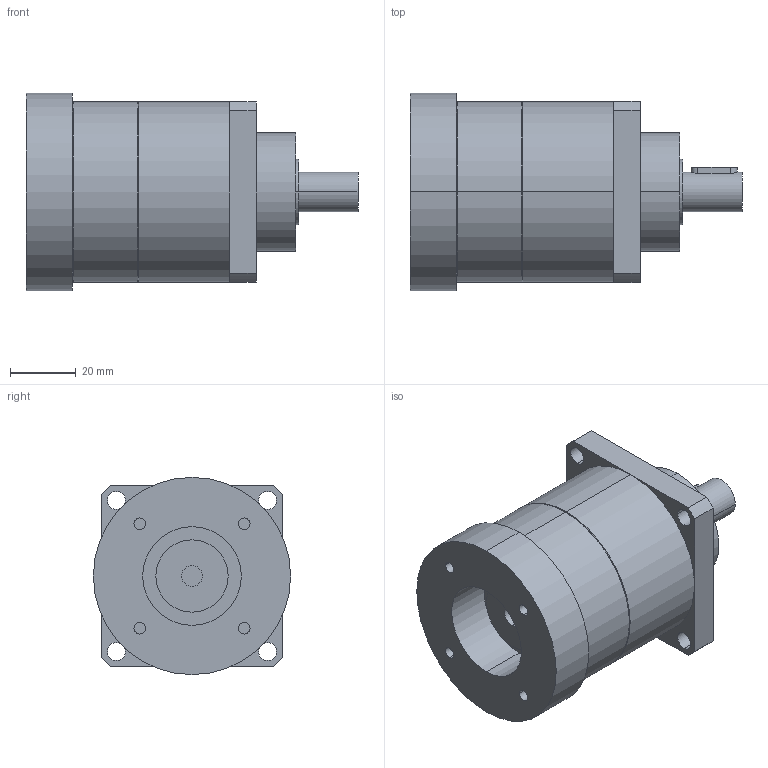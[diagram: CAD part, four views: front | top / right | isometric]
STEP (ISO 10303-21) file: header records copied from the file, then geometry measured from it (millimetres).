
FILE_DESCRIPTION(('CoCreate Modeling STEP Export'),'2;1');
FILE_NAME('GPT55_ig-3-4-5-7-10_12_B5A_6.35_P16.stp','2014-08-25T14:32:04',(''),(''),'CoCreate Modeling STEP processor for AP214 (Solid Model)','CoCreate Modeling 16.00C 25-Feb-2009 (C) Parametric Technology GmbH','');
FILE_SCHEMA(('AUTOMOTIVE_DESIGN { 1 0 10303 214 1 1 1 1 }'));
Length unit declared in the file: millimetre
Products named in the file (2): GPT55_ig-3-4-5-7-10_12_B5A_6.35_P16
Assembly tree (1 placements, depth 2):
  GPT55_ig-3-4-5-7-10_12_B5A_6.35_P16
    GPT55_ig-3-4-5-7-10_12_B5A_6.35_P16
Bounding box: 101 x 60 x 60 mm (x, y, z)
Volume: 181432.1 mm3; surface area: 24956.1 mm2
Topology: 1 solids, 1 shells, 72 faces, 180 edges, 123 vertices
Faces by surface type: cylinder 42, plane 26, cone 4
Entity records: 2237 total; most frequent: CARTESIAN_POINT 661, ORIENTED_EDGE 360, DIRECTION 268, EDGE_CURVE 180, VERTEX_POINT 123, AXIS2_PLACEMENT_3D 100, EDGE_LOOP 93, FACE_OUTER_BOUND 72
